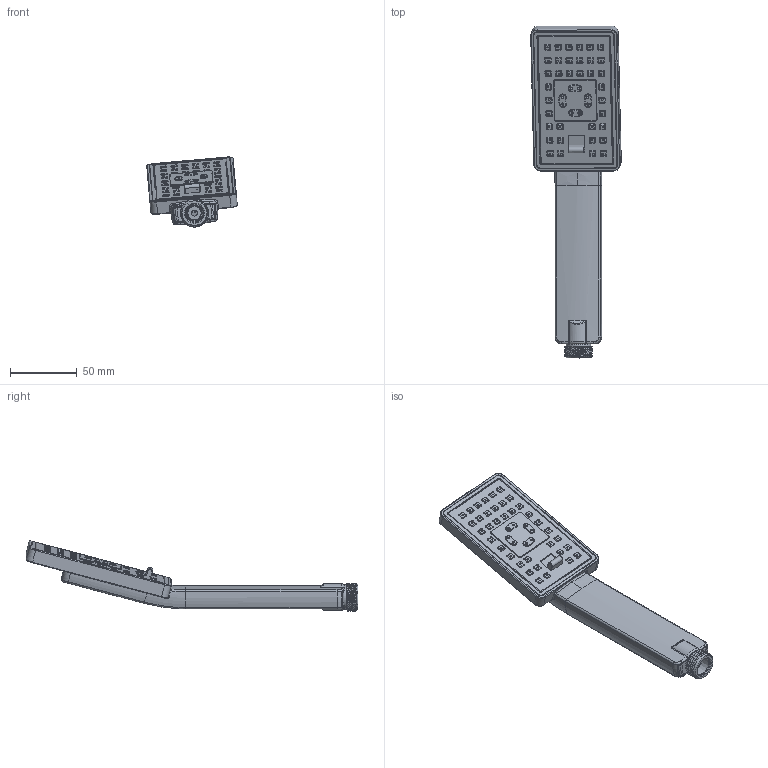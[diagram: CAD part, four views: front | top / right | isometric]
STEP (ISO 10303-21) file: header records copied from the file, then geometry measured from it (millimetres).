
FILE_DESCRIPTION(/* description */ (''),/* implementation_level */ '2;1');
FILE_NAME(/* name */ 'c:\worker\convert-fusion-r05\tmp\job-1\18\output\files\4797211b-b5b6-4fb9-8d70-f6b004ea14bd\ef33b586-7bea-42cf-b378-cd193af9421b.stp',/* time_stamp */ '2020-07-02T06:58:12+00:00',/* author */ (''),/* organization */ (''),/* preprocessor_version */ 'ST-DEVELOPER v18.1',/* originating_system */ 'Autodesk Translation Framework v9.3.0.1241',/* authorisation */ '');
FILE_SCHEMA (('AUTOMOTIVE_DESIGN { 1 0 10303 214 3 1 1 }'));
Products named in the file (1): !JimJim-R
Bounding box: 67.84 x 248.69 x 52.51 mm (x, y, z)
Volume: 107708.2 mm3; surface area: 100597.8 mm2
Topology: 8 solids, 8 shells, 4943 faces, 12546 edges, 7714 vertices
Faces by surface type: plane 1603, cylinder 1395, cone 815, torus 691, bspline 425, sphere 14
Full cylindrical faces by diameter (mm): 1.7 x8, 2.6 x8, 3.5 x2, 4.5 x1, 6.2 x1, 10.3 x1, 11.8 x1, 12 x1, 12.8 x1, 13.6 x1, 18.4 x1, 20.955 x4, 26.509 x1
Entity records: 170441 total; most frequent: CARTESIAN_POINT 49576, DIRECTION 26449, ORIENTED_EDGE 25080, EDGE_CURVE 12540, AXIS2_PLACEMENT_3D 10037, VERTEX_POINT 7714, LINE 6375, VECTOR 6375
